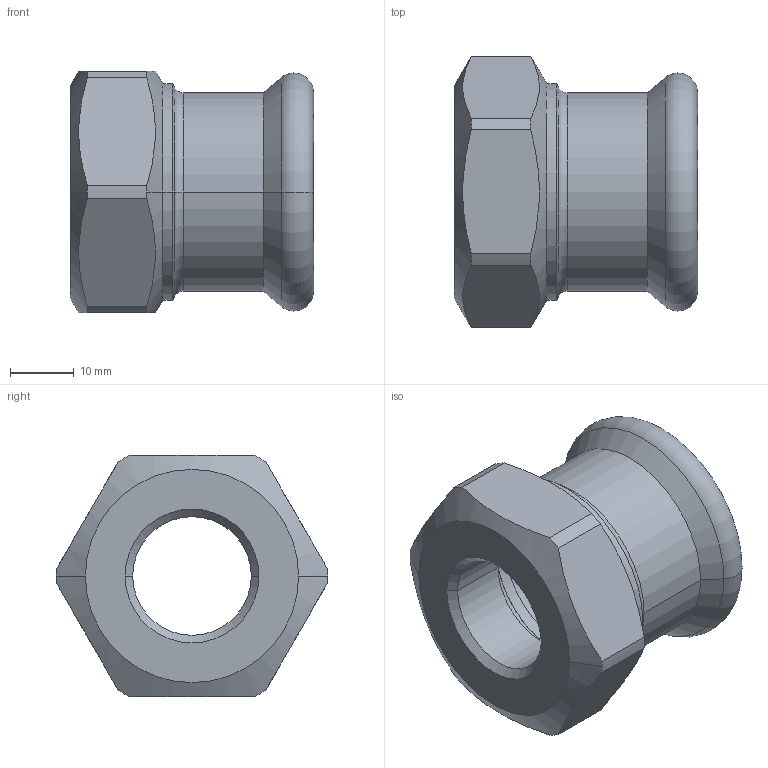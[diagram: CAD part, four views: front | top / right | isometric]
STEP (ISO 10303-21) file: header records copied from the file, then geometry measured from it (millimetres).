
FILE_DESCRIPTION(('Creo Elements/Direct Modeling STEP Export'),'2;1');
FILE_NAME('R2702 28xRp1-2.stp','2021-02-09T11:32:02',(''),(''),'PTC Creo Elements/Direct Modeling STEP processor for AP214 (Solid Model)','PTC Creo Elements/Direct Modeling 19.0C 15-Aug-2015 (C) Parametric Technology GmbH','');
FILE_SCHEMA(('AUTOMOTIVE_DESIGN { 1 0 10303 214 1 1 1 1 }'));
Length unit declared in the file: millimetre
Products named in the file (1): R2702_28xRp1-2
Bounding box: 38.2 x 42.7 x 38 mm (x, y, z)
Volume: 18070.1 mm3; surface area: 9064.6 mm2
Topology: 1 solids, 1 shells, 47 faces, 108 edges, 64 vertices
Faces by surface type: cylinder 20, cone 12, plane 11, torus 4
Entity records: 2114 total; most frequent: CARTESIAN_POINT 1120, ORIENTED_EDGE 216, DIRECTION 178, EDGE_CURVE 108, AXIS2_PLACEMENT_3D 70, VERTEX_POINT 64, EDGE_LOOP 50, FACE_OUTER_BOUND 47
